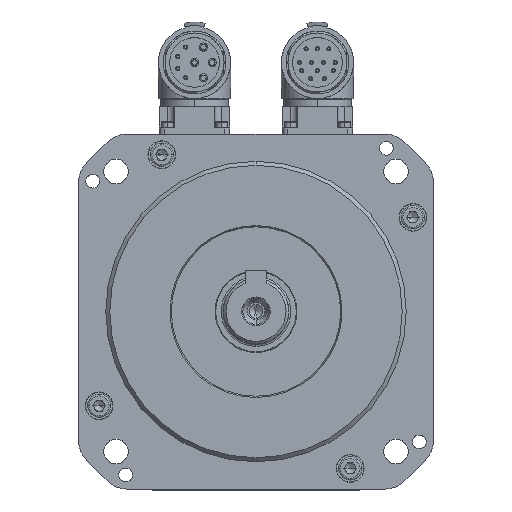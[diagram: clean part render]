
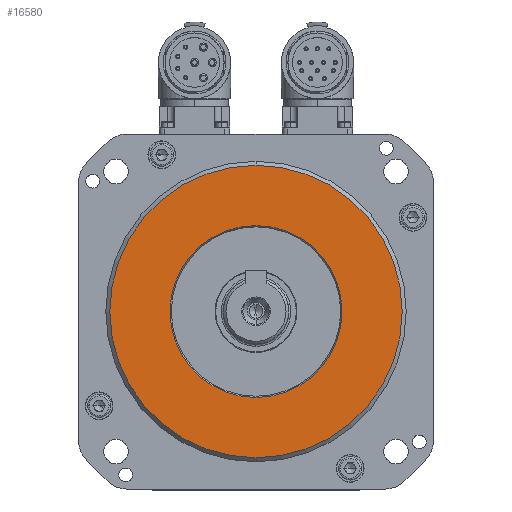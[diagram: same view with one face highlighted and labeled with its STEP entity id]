
A CAD part, top view. The second image highlights one B-rep face of the part: STEP entity #16580.
In plain terms, the highlighted planar face has unit normal (0, 0, 1).
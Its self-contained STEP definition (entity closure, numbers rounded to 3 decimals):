
#1791 = AXIS2_PLACEMENT_3D ( 'NONE', #23806, #38145, #42788 ) ;
#2112 = EDGE_CURVE ( 'NONE', #51305, #29618, #22313, .T. ) ;
#3832 = CARTESIAN_POINT ( 'NONE',  ( 0., -53.54, 66.8 ) ) ;
#3992 = EDGE_LOOP ( 'NONE', ( #44598, #37444 ) ) ;
#4784 = VERTEX_POINT ( 'NONE', #45666 ) ;
#5951 = DIRECTION ( 'NONE',  ( 0., -1., 0. ) ) ;
#9578 = EDGE_CURVE ( 'NONE', #4784, #45897, #57547, .T. ) ;
#9872 = DIRECTION ( 'NONE',  ( 0., 0., 1. ) ) ;
#10178 = DIRECTION ( 'NONE',  ( 0., -1., 0. ) ) ;
#16580 = ADVANCED_FACE ( 'NONE', ( #41471, #54294 ), #34453, .T. ) ;
#17788 = AXIS2_PLACEMENT_3D ( 'NONE', #58233, #48952, #5951 ) ;
#17953 = DIRECTION ( 'NONE',  ( 0., -1., 0. ) ) ;
#18315 = EDGE_CURVE ( 'NONE', #29618, #51305, #54902, .T. ) ;
#22313 = CIRCLE ( 'NONE', #17788, 53.54 ) ;
#23446 = AXIS2_PLACEMENT_3D ( 'NONE', #56944, #60318, #17953 ) ;
#23806 = CARTESIAN_POINT ( 'NONE',  ( 0., 0., 66.8 ) ) ;
#25207 = CARTESIAN_POINT ( 'NONE',  ( 0., 31.481, 66.8 ) ) ;
#27941 = CARTESIAN_POINT ( 'NONE',  ( 0., 53.54, 66.8 ) ) ;
#29313 = AXIS2_PLACEMENT_3D ( 'NONE', #39187, #9872, #43822 ) ;
#29618 = VERTEX_POINT ( 'NONE', #27941 ) ;
#34453 = PLANE ( 'NONE',  #59843 ) ;
#35640 = EDGE_CURVE ( 'NONE', #45897, #4784, #38034, .T. ) ;
#37444 = ORIENTED_EDGE ( 'NONE', *, *, #9578, .F. ) ;
#38034 = CIRCLE ( 'NONE', #29313, 31.481 ) ;
#38145 = DIRECTION ( 'NONE',  ( 0., 0., 1. ) ) ;
#39082 = DIRECTION ( 'NONE',  ( 0., 0., 1. ) ) ;
#39187 = CARTESIAN_POINT ( 'NONE',  ( 0., 0., 66.8 ) ) ;
#40590 = ORIENTED_EDGE ( 'NONE', *, *, #18315, .T. ) ;
#41471 = FACE_BOUND ( 'NONE', #3992, .T. ) ;
#42788 = DIRECTION ( 'NONE',  ( 0., -1., 0. ) ) ;
#43822 = DIRECTION ( 'NONE',  ( 0., -1., 0. ) ) ;
#44598 = ORIENTED_EDGE ( 'NONE', *, *, #35640, .F. ) ;
#45666 = CARTESIAN_POINT ( 'NONE',  ( 0., -31.481, 66.8 ) ) ;
#45897 = VERTEX_POINT ( 'NONE', #25207 ) ;
#48952 = DIRECTION ( 'NONE',  ( 0., 0., 1. ) ) ;
#49165 = CARTESIAN_POINT ( 'NONE',  ( 0., 0., 66.8 ) ) ;
#51305 = VERTEX_POINT ( 'NONE', #3832 ) ;
#54294 = FACE_OUTER_BOUND ( 'NONE', #56034, .T. ) ;
#54902 = CIRCLE ( 'NONE', #1791, 53.54 ) ;
#56034 = EDGE_LOOP ( 'NONE', ( #40590, #57293 ) ) ;
#56944 = CARTESIAN_POINT ( 'NONE',  ( 0., 0., 66.8 ) ) ;
#57293 = ORIENTED_EDGE ( 'NONE', *, *, #2112, .T. ) ;
#57547 = CIRCLE ( 'NONE', #23446, 31.481 ) ;
#58233 = CARTESIAN_POINT ( 'NONE',  ( 0., 0., 66.8 ) ) ;
#59843 = AXIS2_PLACEMENT_3D ( 'NONE', #49165, #39082, #10178 ) ;
#60318 = DIRECTION ( 'NONE',  ( 0., 0., 1. ) ) ;
